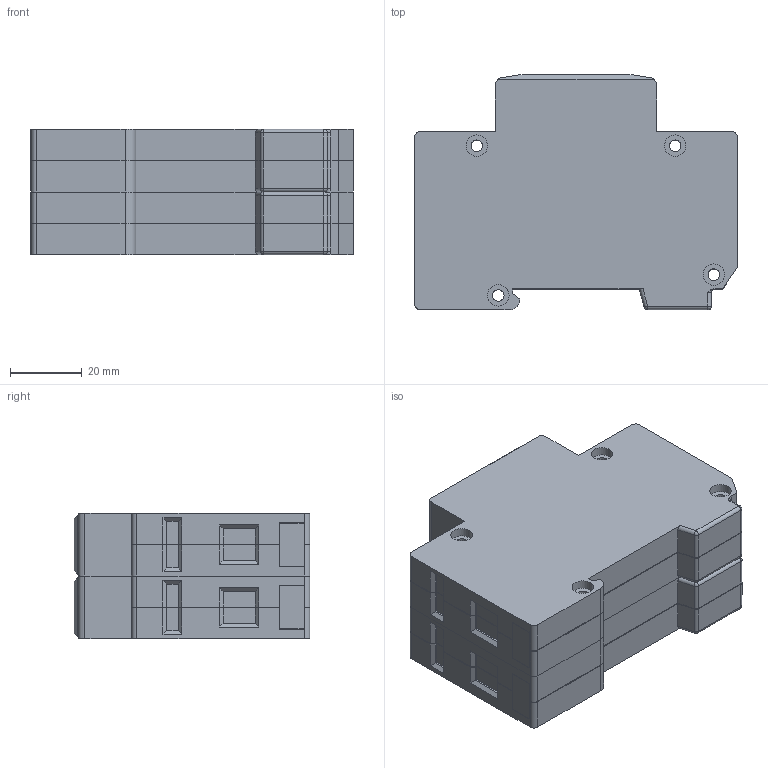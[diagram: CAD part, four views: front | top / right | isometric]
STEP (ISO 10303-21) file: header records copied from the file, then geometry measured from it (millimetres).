
FILE_DESCRIPTION(/* description */ (''),/* implementation_level */ '2;1');
FILE_NAME(/* name */ 'K:\PROJEKTY ROZPRACOVANÉ\MODELY DO KATALOGU\HSA, HLSA 24520, 10007\3D - STEP\HLSA 2+0.stp',/* time_stamp */ '2020-03-17T07:39:50+01:00',/* author */ ('M Koliska'),/* organization */ (''),/* preprocessor_version */ 'ST-DEVELOPER v18',/* originating_system */ 'Autodesk Inventor 2020',/* authorisation */ '');
FILE_SCHEMA (('AUTOMOTIVE_DESIGN { 1 0 10303 214 3 1 1 }'));
Length unit declared in the file: millimetre
Products named in the file (4): HLSA 2+0; HLSA; HLSA_1; DIN 7985 (H) - M5x6-H
Assembly tree (5 placements, depth 3):
  HLSA 2+0
    HLSA  x2
      HLSA_1
      DIN 7985 (H) - M5x6-H
Bounding box: 90 x 65.8 x 35 mm (x, y, z)
Volume: 168501 mm3; surface area: 36790 mm2
Topology: 6 solids, 6 shells, 622 faces, 1730 edges, 1144 vertices
Faces by surface type: plane 436, cylinder 98, cone 68, sphere 12, torus 8
Full cylindrical faces by diameter (mm): 3.2 x8, 4.6 x4, 5 x4, 6 x16
Entity records: 8864 total; most frequent: CARTESIAN_POINT 1598, ORIENTED_EDGE 1516, DIRECTION 1466, EDGE_CURVE 758, LINE 570, VECTOR 570, VERTEX_POINT 500, AXIS2_PLACEMENT_3D 448
